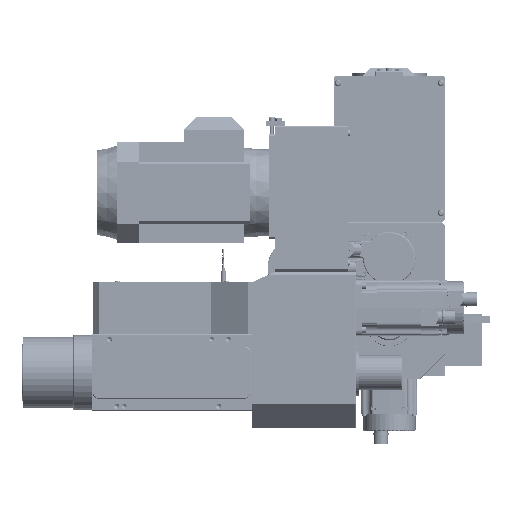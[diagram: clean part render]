
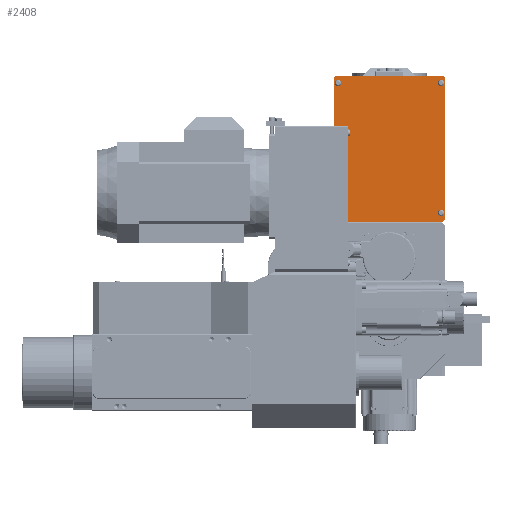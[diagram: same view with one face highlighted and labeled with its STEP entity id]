
A CAD part, front view. The second image highlights one B-rep face of the part: STEP entity #2408.
In plain terms, the highlighted planar face has unit normal (0, -1, 0) as drawn and (0, 0, 1) by its records, which use the part's own axes.
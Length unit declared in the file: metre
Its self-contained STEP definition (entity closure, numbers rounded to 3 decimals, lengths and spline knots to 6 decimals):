
#2408 = ADVANCED_FACE( '', ( #4076 ), #4077, .T. );
#4076 = FACE_OUTER_BOUND( '', #8008, .T. );
#4077 = PLANE( '', #8009 );
#8008 = EDGE_LOOP( '', ( #13193, #13194, #13195, #13196, #13197, #13198, #13199, #13200 ) );
#8009 = AXIS2_PLACEMENT_3D( '', #13201, #13202, #13203 );
#13193 = ORIENTED_EDGE( '', *, *, #24377, .F. );
#13194 = ORIENTED_EDGE( '', *, *, #24391, .F. );
#13195 = ORIENTED_EDGE( '', *, *, #24381, .F. );
#13196 = ORIENTED_EDGE( '', *, *, #24387, .F. );
#13197 = ORIENTED_EDGE( '', *, *, #24388, .F. );
#13198 = ORIENTED_EDGE( '', *, *, #24392, .F. );
#13199 = ORIENTED_EDGE( '', *, *, #24393, .F. );
#13200 = ORIENTED_EDGE( '', *, *, #24394, .F. );
#13201 = CARTESIAN_POINT( '', ( -0.0005, 0.0905, 0.006 ) );
#13202 = DIRECTION( '', ( 0., 0., 1. ) );
#13203 = DIRECTION( '', ( 1., 0., 0. ) );
#24377 = EDGE_CURVE( '', #27873, #27874, #27875, .T. );
#24381 = EDGE_CURVE( '', #27881, #27882, #27883, .T. );
#24387 = EDGE_CURVE( '', #27891, #27881, #27893, .T. );
#24388 = EDGE_CURVE( '', #27894, #27891, #27895, .T. );
#24391 = EDGE_CURVE( '', #27882, #27873, #27899, .T. );
#24392 = EDGE_CURVE( '', #27900, #27894, #27901, .T. );
#24393 = EDGE_CURVE( '', #27902, #27900, #27903, .T. );
#24394 = EDGE_CURVE( '', #27874, #27902, #27904, .T. );
#27873 = VERTEX_POINT( '', #33691 );
#27874 = VERTEX_POINT( '', #33692 );
#27875 = LINE( '', #33693, #33694 );
#27881 = VERTEX_POINT( '', #33703 );
#27882 = VERTEX_POINT( '', #33704 );
#27883 = LINE( '', #33705, #33706 );
#27891 = VERTEX_POINT( '', #33718 );
#27893 = LINE( '', #33721, #33722 );
#27894 = VERTEX_POINT( '', #33723 );
#27895 = LINE( '', #33724, #33725 );
#27899 = LINE( '', #33731, #33732 );
#27900 = VERTEX_POINT( '', #33733 );
#27901 = LINE( '', #33734, #33735 );
#27902 = VERTEX_POINT( '', #33736 );
#27903 = LINE( '', #33737, #33738 );
#27904 = LINE( '', #33739, #33740 );
#33691 = CARTESIAN_POINT( '', ( 0.0875, 0.2085, 0.006 ) );
#33692 = CARTESIAN_POINT( '', ( 0.0895, 0.2065, 0.006 ) );
#33693 = CARTESIAN_POINT( '', ( 0.0955, 0.2005, 0.006 ) );
#33694 = VECTOR( '', #44355, 1. );
#33703 = CARTESIAN_POINT( '', ( -0.0905, 0.2065, 0.006 ) );
#33704 = CARTESIAN_POINT( '', ( -0.0885, 0.2085, 0.006 ) );
#33705 = CARTESIAN_POINT( '', ( -0.0965, 0.2005, 0.006 ) );
#33706 = VECTOR( '', #44359, 1. );
#33718 = CARTESIAN_POINT( '', ( -0.0905, -0.0225, 0.006 ) );
#33721 = CARTESIAN_POINT( '', ( -0.0905, 0.2085, 0.006 ) );
#33722 = VECTOR( '', #44365, 1. );
#33723 = CARTESIAN_POINT( '', ( -0.0855, -0.0275, 0.006 ) );
#33724 = CARTESIAN_POINT( '', ( -0.095, -0.018, 0.006 ) );
#33725 = VECTOR( '', #44366, 1. );
#33731 = CARTESIAN_POINT( '', ( 0.0895, 0.2085, 0.006 ) );
#33732 = VECTOR( '', #44369, 1. );
#33733 = CARTESIAN_POINT( '', ( 0.0845, -0.0275, 0.006 ) );
#33734 = CARTESIAN_POINT( '', ( -0.0905, -0.0275, 0.006 ) );
#33735 = VECTOR( '', #44370, 1. );
#33736 = CARTESIAN_POINT( '', ( 0.0895, -0.0225, 0.006 ) );
#33737 = CARTESIAN_POINT( '', ( 0.094, -0.018, 0.006 ) );
#33738 = VECTOR( '', #44371, 1. );
#33739 = CARTESIAN_POINT( '', ( 0.0895, -0.0275, 0.006 ) );
#33740 = VECTOR( '', #44372, 1. );
#44355 = DIRECTION( '', ( 0.707, -0.707, 0. ) );
#44359 = DIRECTION( '', ( 0.707, 0.707, 0. ) );
#44365 = DIRECTION( '', ( 0., 1., 0. ) );
#44366 = DIRECTION( '', ( -0.707, 0.707, 0. ) );
#44369 = DIRECTION( '', ( 1., 0., 0. ) );
#44370 = DIRECTION( '', ( -1., 0., 0. ) );
#44371 = DIRECTION( '', ( -0.707, -0.707, 0. ) );
#44372 = DIRECTION( '', ( 0., -1., 0. ) );
